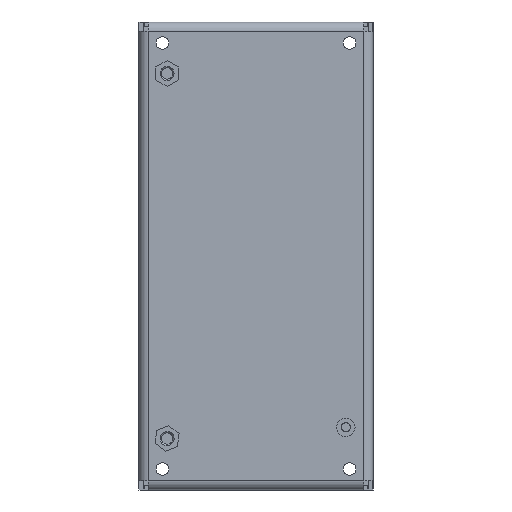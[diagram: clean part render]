
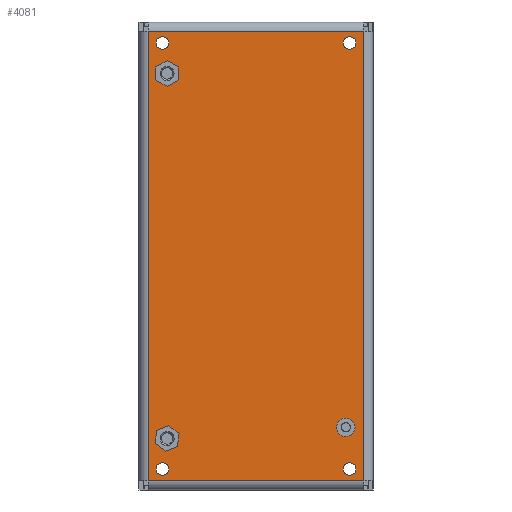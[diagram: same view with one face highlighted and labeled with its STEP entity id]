
A CAD part, front view. The second image highlights one B-rep face of the part: STEP entity #4081.
In plain terms, the highlighted planar face has unit normal (0, -1, 0).
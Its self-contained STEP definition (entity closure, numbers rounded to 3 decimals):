
#4081=ADVANCED_FACE('',(#8933,#8935,#8937,#8939,#8941,#8943,#8945,#8947),#8949,.T.);
#8933=FACE_BOUND('',#8934,.T.);
#8934=EDGE_LOOP('',(#12515,#12516,#12517,#12518));
#8935=FACE_BOUND('',#8936,.T.);
#8936=EDGE_LOOP('',(#12519,#12520,#12521,#12522,#12523,#12524));
#8937=FACE_BOUND('',#8938,.T.);
#8938=EDGE_LOOP('',(#12525,#12526,#12527,#12528,#12529,#12530));
#8939=FACE_BOUND('',#8940,.T.);
#8940=EDGE_LOOP('',(#12531));
#8941=FACE_BOUND('',#8942,.T.);
#8942=EDGE_LOOP('',(#12532));
#8943=FACE_BOUND('',#8944,.T.);
#8944=EDGE_LOOP('',(#12533));
#8945=FACE_BOUND('',#8946,.T.);
#8946=EDGE_LOOP('',(#12534));
#8947=FACE_BOUND('',#8948,.T.);
#8948=EDGE_LOOP('',(#12535));
#8949=PLANE('',#8950);
#8950=AXIS2_PLACEMENT_3D('',#8951,#8952,#8953);
#8951=CARTESIAN_POINT('',(-25.,0.,-50.));
#8952=DIRECTION('',(0.,-1.,0.));
#8953=DIRECTION('',(0.,0.,-1.));
#12515=ORIENTED_EDGE('',*,*,#14007,.T.);
#12516=ORIENTED_EDGE('',*,*,#14135,.T.);
#12517=ORIENTED_EDGE('',*,*,#14309,.T.);
#12518=ORIENTED_EDGE('',*,*,#14133,.T.);
#12519=ORIENTED_EDGE('',*,*,#14312,.F.);
#12520=ORIENTED_EDGE('',*,*,#14313,.F.);
#12521=ORIENTED_EDGE('',*,*,#14314,.F.);
#12522=ORIENTED_EDGE('',*,*,#14315,.F.);
#12523=ORIENTED_EDGE('',*,*,#14316,.F.);
#12524=ORIENTED_EDGE('',*,*,#14317,.F.);
#12525=ORIENTED_EDGE('',*,*,#14318,.F.);
#12526=ORIENTED_EDGE('',*,*,#14319,.F.);
#12527=ORIENTED_EDGE('',*,*,#14320,.F.);
#12528=ORIENTED_EDGE('',*,*,#14321,.F.);
#12529=ORIENTED_EDGE('',*,*,#14322,.F.);
#12530=ORIENTED_EDGE('',*,*,#14323,.F.);
#12531=ORIENTED_EDGE('',*,*,#14324,.F.);
#12532=ORIENTED_EDGE('',*,*,#14325,.T.);
#12533=ORIENTED_EDGE('',*,*,#14326,.T.);
#12534=ORIENTED_EDGE('',*,*,#14327,.T.);
#12535=ORIENTED_EDGE('',*,*,#14328,.T.);
#14007=EDGE_CURVE('',#15473,#15476,#16238,.T.);
#14133=EDGE_CURVE('',#16223,#15473,#16395,.T.);
#14135=EDGE_CURVE('',#15476,#16220,#16397,.T.);
#14309=EDGE_CURVE('',#16220,#16223,#16671,.T.);
#14312=EDGE_CURVE('',#16676,#16677,#16678,.T.);
#14313=EDGE_CURVE('',#16679,#16676,#16680,.T.);
#14314=EDGE_CURVE('',#16681,#16679,#16682,.T.);
#14315=EDGE_CURVE('',#16683,#16681,#16684,.T.);
#14316=EDGE_CURVE('',#16685,#16683,#16686,.T.);
#14317=EDGE_CURVE('',#16677,#16685,#16687,.T.);
#14318=EDGE_CURVE('',#16688,#16689,#16690,.T.);
#14319=EDGE_CURVE('',#16691,#16688,#16692,.T.);
#14320=EDGE_CURVE('',#16693,#16691,#16694,.T.);
#14321=EDGE_CURVE('',#16695,#16693,#16696,.T.);
#14322=EDGE_CURVE('',#16697,#16695,#16698,.T.);
#14323=EDGE_CURVE('',#16689,#16697,#16699,.T.);
#14324=EDGE_CURVE('',#16700,#16700,#16701,.T.);
#14325=EDGE_CURVE('',#16702,#16702,#16703,.T.);
#14326=EDGE_CURVE('',#16704,#16704,#16705,.T.);
#14327=EDGE_CURVE('',#16706,#16706,#16707,.T.);
#14328=EDGE_CURVE('',#16708,#16708,#16709,.T.);
#15473=VERTEX_POINT('',#19293);
#15476=VERTEX_POINT('',#19301);
#16220=VERTEX_POINT('',#23587);
#16223=VERTEX_POINT('',#23595);
#16238=LINE('',#24035,#24036);
#16395=LINE('',#24546,#24547);
#16397=LINE('',#24553,#24554);
#16671=LINE('',#25252,#25253);
#16676=VERTEX_POINT('',#25467);
#16677=VERTEX_POINT('',#25468);
#16678=LINE('',#25469,#25470);
#16679=VERTEX_POINT('',#25472);
#16680=LINE('',#25473,#25474);
#16681=VERTEX_POINT('',#25476);
#16682=LINE('',#25477,#25478);
#16683=VERTEX_POINT('',#25480);
#16684=LINE('',#25481,#25482);
#16685=VERTEX_POINT('',#25484);
#16686=LINE('',#25485,#25486);
#16687=LINE('',#25488,#25489);
#16688=VERTEX_POINT('',#25491);
#16689=VERTEX_POINT('',#25492);
#16690=LINE('',#25493,#25494);
#16691=VERTEX_POINT('',#25496);
#16692=LINE('',#25497,#25498);
#16693=VERTEX_POINT('',#25500);
#16694=LINE('',#25501,#25502);
#16695=VERTEX_POINT('',#25504);
#16696=LINE('',#25505,#25506);
#16697=VERTEX_POINT('',#25508);
#16698=LINE('',#25509,#25510);
#16699=LINE('',#25512,#25513);
#16700=VERTEX_POINT('',#25515);
#16701=CIRCLE('',#25516,1.98);
#16702=VERTEX_POINT('',#25520);
#16703=CIRCLE('',#25521,1.35);
#16704=VERTEX_POINT('',#25525);
#16705=CIRCLE('',#25526,1.35);
#16706=VERTEX_POINT('',#25530);
#16707=CIRCLE('',#25531,1.35);
#16708=VERTEX_POINT('',#25535);
#16709=CIRCLE('',#25536,1.35);
#19293=CARTESIAN_POINT('',(-23.,0.,48.));
#19301=CARTESIAN_POINT('',(-23.,0.,-48.));
#23587=CARTESIAN_POINT('',(23.,0.,-48.));
#23595=CARTESIAN_POINT('',(23.,0.,48.));
#24035=CARTESIAN_POINT('',(-23.,0.,48.));
#24036=VECTOR('',#24037,1.);
#24037=DIRECTION('',(0.,0.,-1.));
#24546=CARTESIAN_POINT('',(23.,0.,48.));
#24547=VECTOR('',#24548,1.);
#24548=DIRECTION('',(-1.,0.,0.));
#24553=CARTESIAN_POINT('',(-23.,0.,-48.));
#24554=VECTOR('',#24555,1.);
#24555=DIRECTION('',(1.,0.,0.));
#25252=CARTESIAN_POINT('',(23.,0.,-48.));
#25253=VECTOR('',#25254,1.);
#25254=DIRECTION('',(0.,0.,1.));
#25467=CARTESIAN_POINT('',(-19.382,0.,-41.745));
#25468=CARTESIAN_POINT('',(-16.814,0.,-40.703));
#25469=CARTESIAN_POINT('',(-19.382,0.,-41.745));
#25470=VECTOR('',#25471,1.);
#25471=DIRECTION('',(0.927,0.,0.376));
#25472=CARTESIAN_POINT('',(-21.568,0.,-40.041));
#25473=CARTESIAN_POINT('',(-21.568,0.,-40.041));
#25474=VECTOR('',#25475,1.);
#25475=DIRECTION('',(0.789,0.,-0.615));
#25476=CARTESIAN_POINT('',(-21.186,0.,-37.297));
#25477=CARTESIAN_POINT('',(-21.186,0.,-37.297));
#25478=VECTOR('',#25479,1.);
#25479=DIRECTION('',(-0.138,0.,-0.99));
#25480=CARTESIAN_POINT('',(-18.618,0.,-36.255));
#25481=CARTESIAN_POINT('',(-18.618,0.,-36.255));
#25482=VECTOR('',#25483,1.);
#25483=DIRECTION('',(-0.927,0.,-0.376));
#25484=CARTESIAN_POINT('',(-16.432,0.,-37.959));
#25485=CARTESIAN_POINT('',(-16.432,0.,-37.959));
#25486=VECTOR('',#25487,1.);
#25487=DIRECTION('',(-0.789,0.,0.615));
#25488=CARTESIAN_POINT('',(-16.814,0.,-40.703));
#25489=VECTOR('',#25490,1.);
#25490=DIRECTION('',(0.138,0.,0.99));
#25491=CARTESIAN_POINT('',(-21.4,0.,37.614));
#25492=CARTESIAN_POINT('',(-19.,0.,36.229));
#25493=CARTESIAN_POINT('',(-21.4,0.,37.614));
#25494=VECTOR('',#25495,1.);
#25495=DIRECTION('',(0.866,0.,-0.5));
#25496=CARTESIAN_POINT('',(-21.4,0.,40.386));
#25497=CARTESIAN_POINT('',(-21.4,0.,40.386));
#25498=VECTOR('',#25499,1.);
#25499=DIRECTION('',(0.,0.,-1.));
#25500=CARTESIAN_POINT('',(-19.,0.,41.771));
#25501=CARTESIAN_POINT('',(-19.,0.,41.771));
#25502=VECTOR('',#25503,1.);
#25503=DIRECTION('',(-0.866,0.,-0.5));
#25504=CARTESIAN_POINT('',(-16.6,0.,40.386));
#25505=CARTESIAN_POINT('',(-16.6,0.,40.386));
#25506=VECTOR('',#25507,1.);
#25507=DIRECTION('',(-0.866,0.,0.5));
#25508=CARTESIAN_POINT('',(-16.6,0.,37.614));
#25509=CARTESIAN_POINT('',(-16.6,0.,37.614));
#25510=VECTOR('',#25511,1.);
#25511=DIRECTION('',(0.,0.,1.));
#25512=CARTESIAN_POINT('',(-19.,0.,36.229));
#25513=VECTOR('',#25514,1.);
#25514=DIRECTION('',(0.866,0.,0.5));
#25515=CARTESIAN_POINT('',(20.921,0.,-37.58));
#25516=AXIS2_PLACEMENT_3D('',#25517,#25518,#25519);
#25517=CARTESIAN_POINT('',(19.2,0.,-36.6));
#25518=DIRECTION('',(0.,-1.,0.));
#25519=DIRECTION('',(0.869,0.,-0.495));
#25520=CARTESIAN_POINT('',(20.,0.,46.85));
#25521=AXIS2_PLACEMENT_3D('',#25522,#25523,#25524);
#25522=CARTESIAN_POINT('',(20.,0.,45.5));
#25523=DIRECTION('',(-0.,1.,-0.));
#25524=DIRECTION('',(0.,0.,-1.));
#25525=CARTESIAN_POINT('',(-20.,0.,46.85));
#25526=AXIS2_PLACEMENT_3D('',#25527,#25528,#25529);
#25527=CARTESIAN_POINT('',(-20.,0.,45.5));
#25528=DIRECTION('',(-0.,1.,-0.));
#25529=DIRECTION('',(0.,0.,-1.));
#25530=CARTESIAN_POINT('',(-20.,0.,-44.15));
#25531=AXIS2_PLACEMENT_3D('',#25532,#25533,#25534);
#25532=CARTESIAN_POINT('',(-20.,0.,-45.5));
#25533=DIRECTION('',(-0.,1.,-0.));
#25534=DIRECTION('',(0.,0.,-1.));
#25535=CARTESIAN_POINT('',(20.,0.,-44.15));
#25536=AXIS2_PLACEMENT_3D('',#25537,#25538,#25539);
#25537=CARTESIAN_POINT('',(20.,0.,-45.5));
#25538=DIRECTION('',(-0.,1.,-0.));
#25539=DIRECTION('',(0.,0.,-1.));
